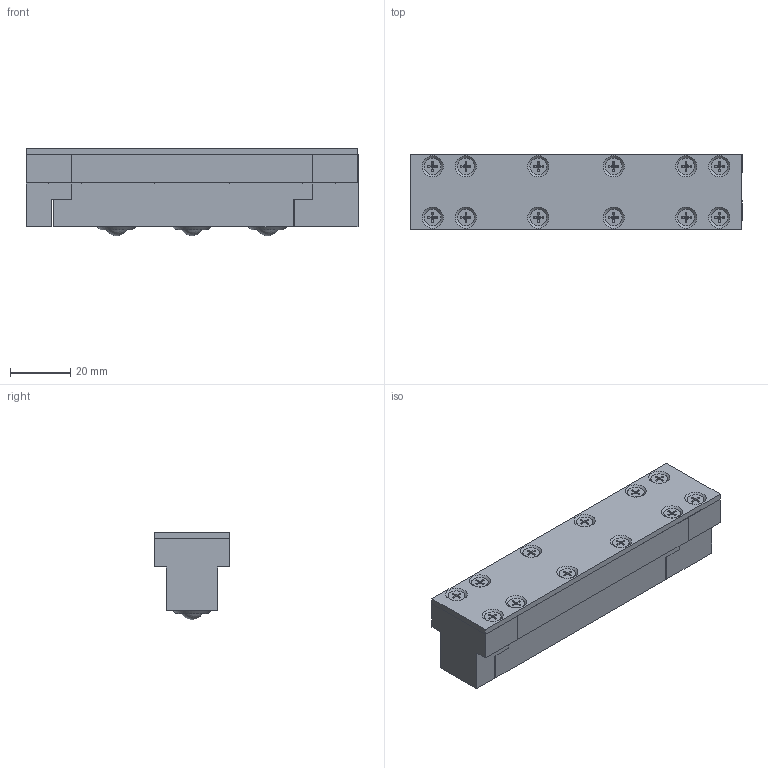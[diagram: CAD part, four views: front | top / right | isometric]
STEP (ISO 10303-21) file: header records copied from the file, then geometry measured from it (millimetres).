
FILE_DESCRIPTION(/* description */ (''),/* implementation_level */ '2;1');
FILE_NAME(/* name */ 'Z:\34-Tei\01-web 3Dデータ\43-ISR-18T\X2\578B\X0\\ISR-18T-110.stp',/* time_stamp */ '2015-01-16T10:28:16+09:00',/* author */ ('yamaki'),/* organization */ (''),/* preprocessor_version */ 'ST-DEVELOPER v15.6',/* originating_system */ 'Autodesk Inventor 2015',/* authorisation */ '');
FILE_SCHEMA (('AUTOMOTIVE_DESIGN { 1 0 10303 214 3 1 1 }'));
Length unit declared in the file: millimetre
Products named in the file (9): 4903; 4903TB; 4903CB; JIS B 1111 - Csunk M3 x 6 - H; JIS B 1176 - M3 x 10; 4903SL; A108AA; 4903PS; 4903AA
Bounding box: 110 x 25 x 28.97 mm (x, y, z)
Volume: 52238.7 mm3; surface area: 33051.4 mm2
Topology: 26 solids, 26 shells, 663 faces, 1646 edges, 1059 vertices
Faces by surface type: plane 259, cone 211, cylinder 122, torus 65, sphere 3, bspline 3
Full cylindrical faces by diameter (mm): 2 x5, 2.459 x16, 2.693 x12, 3 x16, 3.242 x3, 3.5 x16, 5.5 x16, 6.2 x2, 8 x1, 10 x3, 13.4 x3, 13.9 x3, 14 x3, 16 x3, 19.8 x3, 20 x3
Entity records: 7213 total; most frequent: CARTESIAN_POINT 1479, DIRECTION 1190, ORIENTED_EDGE 972, EDGE_CURVE 486, AXIS2_PLACEMENT_3D 471, EDGE_LOOP 405, VERTEX_POINT 373, LINE 248
